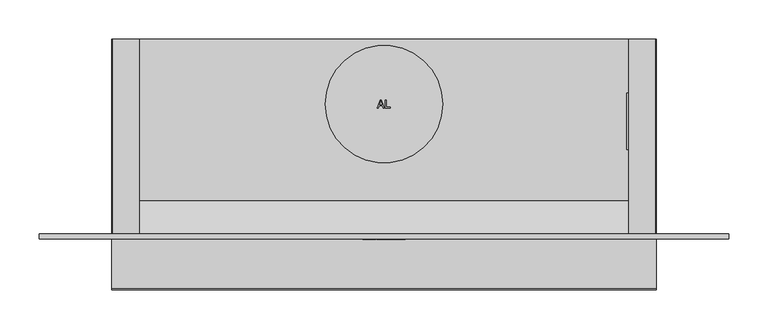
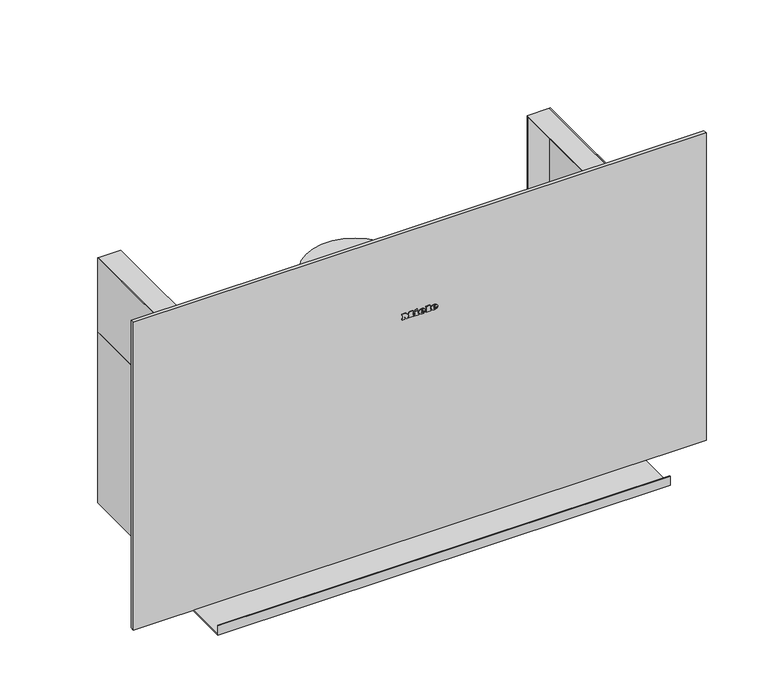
"""IFC4 building model written with IfcOpenShell, lengths in millimetres: proxy geometry, 12529800_KZ_DA9092W_OBSW : 28909240_KZ_12529800_DA9092W_OBSW."""

from ifc_helpers import new_model, si_unit, point, frame, frame_2d, origin, place, context, project, spatial, polyline, circle_curve, ellipse_curve, trimmed, segment, composite_curve, outline, extrude, faceted_brep, source, transform, mapped, element, save
from ifc_brep_helpers import plane_surface, cylinder_surface, revolved_surface, extruded_surface, advanced_brep


def specialty_equipment_fa54f33d(model_context):
    return source(origin(), model_context, "Body", "SolidModel", [
        advanced_brep(
        [(21.38, -256.0, 363.133), (21.38, -256.0, 364.042), (27.401, -256.0, 364.042), (16.925, -256.0, 364.042), (19.4, -256.0, 361.0), (27.248, -256.0, 363.133), (24.53, -256.0, 363.133), (22.388, -256.0, 362.125), (21.38, -256.0, 365.194), (21.38, -256.0, 366.175), (22.919, -256.0, 366.175), (22.919, -256.0, 365.194), (21.38, -255.0, 363.133), (22.388, -255.0, 362.125), (24.53, -255.0, 363.133), (27.248, -255.0, 363.133), (19.4, -255.0, 361.0), (16.925, -255.0, 364.042), (27.401, -255.0, 364.042), (21.38, -255.0, 364.042), (21.38, -255.0, 365.194), (22.919, -255.0, 365.194), (22.919, -255.0, 366.175), (21.38, -255.0, 366.175)],
        [
            (0, 1),
            (1, 2),
            (2, 3, ellipse_curve(frame((22.163, -256.0, 364.042), z_axis=(0.0, -1.0, 0.0), x_axis=(-1.0, 0.0, 0.0)), 5.238, 4.329)),
            (3, 4, circle_curve(frame((20.4080491, -256.0, 364.348), z_axis=(0.0, -1.0, 0.0), x_axis=(0.0, 0.0, -1.0)), 3.4964649)),
            (4, 5, circle_curve(frame((22.0581428, -256.0, 366.724), z_axis=(0.0, -1.0, 0.0), x_axis=(0.0, 0.0, -1.0)), 6.3110933)),
            (5, 6),
            (6, 7, circle_curve(frame((22.8279412, -256.0, 363.97), z_axis=(0.0, 1.0, 0.0), x_axis=(0.0, 0.0, -1.0)), 1.896727)),
            (7, 0, circle_curve(frame((22.388, -256.0, 363.133), z_axis=(0.0, 1.0, 0.0), x_axis=(0.0, 0.0, -1.0)), 1.008)),
            (8, 9),
            (9, 10, circle_curve(frame((22.1495, -256.0, 366.175), z_axis=(0.0, 1.0, 0.0), x_axis=(0.0, 0.0, -1.0)), 0.7695)),
            (10, 11),
            (11, 8),
            (12, 13, circle_curve(frame((22.388, -255.0, 363.133), z_axis=(0.0, -1.0, 0.0), x_axis=(0.0, 0.0, -1.0)), 1.008)),
            (13, 14, circle_curve(frame((22.8279412, -255.0, 363.97), z_axis=(0.0, -1.0, 0.0), x_axis=(0.0, 0.0, -1.0)), 1.896727)),
            (14, 15),
            (15, 16, circle_curve(frame((22.0581428, -255.0, 366.724), z_axis=(0.0, 1.0, 0.0), x_axis=(0.0, 0.0, -1.0)), 6.3110933)),
            (16, 17, circle_curve(frame((20.4080491, -255.0, 364.348), z_axis=(0.0, 1.0, 0.0), x_axis=(0.0, 0.0, -1.0)), 3.4964649)),
            (17, 18, ellipse_curve(frame((22.163, -255.0, 364.042), z_axis=(0.0, 1.0, 0.0), x_axis=(-1.0, 0.0, 0.0)), 5.238, 4.329)),
            (18, 19),
            (19, 12),
            (20, 21),
            (21, 22),
            (22, 23, circle_curve(frame((22.1495, -255.0, 366.175), z_axis=(0.0, -1.0, 0.0), x_axis=(0.0, 0.0, -1.0)), 0.7695)),
            (23, 20),
            (0, 12),
            (19, 1),
            (18, 2),
            (5, 15),
            (14, 6),
            (17, 3),
            (13, 7),
            (16, 4),
            (8, 20),
            (23, 9),
            (22, 10),
            (21, 11),
        ],
        [
            plane_surface(frame((21.38, -256.0, 364.042), z_axis=(0.0, -1.0, 0.0), x_axis=(0.0, 0.0, 1.0))),
            plane_surface(frame((21.38, -255.0, 364.042), z_axis=(0.0, 1.0, 0.0), x_axis=(0.0, 0.0, -1.0))),
            plane_surface(frame((21.38, -256.0, 363.133), z_axis=(1.0, 0.0, 0.0), x_axis=(0.0, 1.0, 0.0))),
            plane_surface(frame((21.38, -256.0, 364.042), z_axis=(0.0, 0.0, -1.0), x_axis=(0.0, 1.0, 0.0))),
            plane_surface(frame((27.248, -256.0, 363.133), z_axis=(0.0, 0.0, 1.0), x_axis=(0.0, 1.0, 0.0))),
            extruded_surface(trimmed(ellipse_curve(frame((22.163, -254.0, 364.042), z_axis=(0.0, -1.0, 0.0), x_axis=(-1.0, 0.0, 0.0)), 5.238, 4.329), [point((27.401, -254.0, 364.042))], [point((16.925, -254.0, 364.042))], True, "CARTESIAN"), (0.0, -1.0, 0.0), 1.0),
            revolved_surface(polyline([(22.8279412, -255.0, 362.07327300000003), (22.8279412, -256.0, 362.07327300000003)]), (22.8279412, -255.0, 363.97), (0.0, 1.0, 0.0)),
            revolved_surface(polyline([(22.388, -255.0, 362.125), (22.388, -256.0, 362.125)]), (22.388, -255.0, 363.133), (0.0, 1.0, 0.0)),
            cylinder_surface(frame((20.4080491, -255.0, 364.348), z_axis=(0.0, -1.0, 0.0), x_axis=(0.0, 0.0, -1.0)), 3.4964649),
            cylinder_surface(frame((22.0581428, -255.0, 366.724), z_axis=(0.0, -1.0, 0.0), x_axis=(0.0, 0.0, -1.0)), 6.3110933),
            plane_surface(frame((21.38, -256.0, 365.194), z_axis=(1.0, 0.0, 0.0), x_axis=(0.0, 1.0, 0.0))),
            revolved_surface(polyline([(22.1495, -255.0, 365.4055), (22.1495, -256.0, 365.4055)]), (22.1495, -255.0, 366.175), (0.0, 1.0, 0.0)),
            plane_surface(frame((22.919, -256.0, 366.175), z_axis=(-1.0, 0.0, 0.0), x_axis=(0.0, 1.0, 0.0))),
            plane_surface(frame((22.919, -256.0, 365.194), z_axis=(0.0, 0.0, 1.0), x_axis=(0.0, 1.0, 0.0))),
        ],
        [
            (0, [[1, 2, 3, 4, 5, 6, 7, 8], [9, 10, 11, 12]]),
            (1, [[13, 14, 15, 16, 17, 18, 19, 20], [21, 22, 23, 24]]),
            (2, [[-1, 25, -20, 26]]),
            (3, [[-2, -26, -19, 27]]),
            (4, [[-6, 28, -15, 29]]),
            (5, [[-3, -27, -18, 30]]),
            (6, [[-7, -29, -14, 31]]),
            (7, [[-8, -31, -13, -25]]),
            (8, [[-4, -30, -17, 32]]),
            (9, [[-5, -32, -16, -28]]),
            (10, [[-9, 33, -24, 34]]),
            (11, [[-10, -34, -23, 35]]),
            (12, [[-11, -35, -22, 36]]),
            (13, [[-12, -36, -21, -33]]),
        ],
    ),
        advanced_brep(
        [(2.597, -256.0, 363.133), (2.597, -256.0, 364.042), (8.618, -256.0, 364.042), (-1.858, -256.0, 364.042), (0.617, -256.0, 361.0), (8.465, -256.0, 363.133), (5.747, -256.0, 363.133), (3.605, -256.0, 362.125), (2.597, -256.0, 365.194), (2.597, -256.0, 366.175), (4.136, -256.0, 366.175), (4.136, -256.0, 365.194), (2.597, -255.0, 363.133), (3.605, -255.0, 362.125), (5.747, -255.0, 363.133), (8.465, -255.0, 363.133), (0.617, -255.0, 361.0), (-1.858, -255.0, 364.042), (8.618, -255.0, 364.042), (2.597, -255.0, 364.042), (2.597, -255.0, 365.194), (4.136, -255.0, 365.194), (4.136, -255.0, 366.175), (2.597, -255.0, 366.175)],
        [
            (0, 1),
            (1, 2),
            (2, 3, ellipse_curve(frame((3.38, -256.0, 364.042), z_axis=(0.0, -1.0, 0.0), x_axis=(-1.0, 0.0, 0.0)), 5.238, 4.329)),
            (3, 4, circle_curve(frame((1.6250491, -256.0, 364.348), z_axis=(0.0, -1.0, 0.0), x_axis=(0.0, 0.0, -1.0)), 3.4964649)),
            (4, 5, circle_curve(frame((3.2751428, -256.0, 366.724), z_axis=(0.0, -1.0, 0.0), x_axis=(0.0, 0.0, -1.0)), 6.3110933)),
            (5, 6),
            (6, 7, circle_curve(frame((4.0449412, -256.0, 363.97), z_axis=(0.0, 1.0, 0.0), x_axis=(0.0, 0.0, -1.0)), 1.896727)),
            (7, 0, circle_curve(frame((3.605, -256.0, 363.133), z_axis=(0.0, 1.0, 0.0), x_axis=(0.0, 0.0, -1.0)), 1.008)),
            (8, 9),
            (9, 10, circle_curve(frame((3.3665, -256.0, 366.175), z_axis=(0.0, 1.0, 0.0), x_axis=(0.0, 0.0, -1.0)), 0.7695)),
            (10, 11),
            (11, 8),
            (12, 13, circle_curve(frame((3.605, -255.0, 363.133), z_axis=(0.0, -1.0, 0.0), x_axis=(0.0, 0.0, -1.0)), 1.008)),
            (13, 14, circle_curve(frame((4.0449412, -255.0, 363.97), z_axis=(0.0, -1.0, 0.0), x_axis=(0.0, 0.0, -1.0)), 1.896727)),
            (14, 15),
            (15, 16, circle_curve(frame((3.2751428, -255.0, 366.724), z_axis=(0.0, 1.0, 0.0), x_axis=(0.0, 0.0, -1.0)), 6.3110933)),
            (16, 17, circle_curve(frame((1.6250491, -255.0, 364.348), z_axis=(0.0, 1.0, 0.0), x_axis=(0.0, 0.0, -1.0)), 3.4964649)),
            (17, 18, ellipse_curve(frame((3.38, -255.0, 364.042), z_axis=(0.0, 1.0, 0.0), x_axis=(-1.0, 0.0, 0.0)), 5.238, 4.329)),
            (18, 19),
            (19, 12),
            (20, 21),
            (21, 22),
            (22, 23, circle_curve(frame((3.3665, -255.0, 366.175), z_axis=(0.0, -1.0, 0.0), x_axis=(0.0, 0.0, -1.0)), 0.7695)),
            (23, 20),
            (0, 12),
            (19, 1),
            (18, 2),
            (5, 15),
            (14, 6),
            (17, 3),
            (13, 7),
            (16, 4),
            (8, 20),
            (23, 9),
            (22, 10),
            (21, 11),
        ],
        [
            plane_surface(frame((2.597, -256.0, 364.042), z_axis=(0.0, -1.0, 0.0), x_axis=(0.0, 0.0, 1.0))),
            plane_surface(frame((2.597, -255.0, 364.042), z_axis=(0.0, 1.0, 0.0), x_axis=(0.0, 0.0, -1.0))),
            plane_surface(frame((2.597, -256.0, 363.133), z_axis=(1.0, 0.0, 0.0), x_axis=(0.0, 1.0, 0.0))),
            plane_surface(frame((2.597, -256.0, 364.042), z_axis=(0.0, 0.0, -1.0), x_axis=(0.0, 1.0, 0.0))),
            plane_surface(frame((8.465, -256.0, 363.133), z_axis=(0.0, 0.0, 1.0), x_axis=(0.0, 1.0, 0.0))),
            extruded_surface(trimmed(ellipse_curve(frame((3.38, -254.0, 364.042), z_axis=(0.0, -1.0, 0.0), x_axis=(-1.0, 0.0, 0.0)), 5.238, 4.329), [point((8.618, -254.0, 364.042))], [point((-1.858, -254.0, 364.042))], True, "CARTESIAN"), (0.0, -1.0, 0.0), 1.0),
            revolved_surface(polyline([(4.0449412, -255.0, 362.07327300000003), (4.0449412, -256.0, 362.07327300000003)]), (4.0449412, -255.0, 363.97), (0.0, 1.0, 0.0)),
            revolved_surface(polyline([(3.605, -255.0, 362.125), (3.605, -256.0, 362.125)]), (3.605, -255.0, 363.133), (0.0, 1.0, 0.0)),
            cylinder_surface(frame((1.6250491, -255.0, 364.348), z_axis=(0.0, -1.0, 0.0), x_axis=(0.0, 0.0, -1.0)), 3.4964649),
            cylinder_surface(frame((3.2751428, -255.0, 366.724), z_axis=(0.0, -1.0, 0.0), x_axis=(0.0, 0.0, -1.0)), 6.3110933),
            plane_surface(frame((2.597, -256.0, 365.194), z_axis=(1.0, 0.0, 0.0), x_axis=(0.0, 1.0, 0.0))),
            revolved_surface(polyline([(3.3665, -255.0, 365.4055), (3.3665, -256.0, 365.4055)]), (3.3665, -255.0, 366.175), (0.0, 1.0, 0.0)),
            plane_surface(frame((4.136, -256.0, 366.175), z_axis=(-1.0, 0.0, 0.0), x_axis=(0.0, 1.0, 0.0))),
            plane_surface(frame((4.136, -256.0, 365.194), z_axis=(0.0, 0.0, 1.0), x_axis=(0.0, 1.0, 0.0))),
        ],
        [
            (0, [[1, 2, 3, 4, 5, 6, 7, 8], [9, 10, 11, 12]]),
            (1, [[13, 14, 15, 16, 17, 18, 19, 20], [21, 22, 23, 24]]),
            (2, [[-1, 25, -20, 26]]),
            (3, [[-2, -26, -19, 27]]),
            (4, [[-6, 28, -15, 29]]),
            (5, [[-3, -27, -18, 30]]),
            (6, [[-7, -29, -14, 31]]),
            (7, [[-8, -31, -13, -25]]),
            (8, [[-4, -30, -17, 32]]),
            (9, [[-5, -32, -16, -28]]),
            (10, [[-9, 33, -24, 34]]),
            (11, [[-10, -34, -23, 35]]),
            (12, [[-11, -35, -22, 36]]),
            (13, [[-12, -36, -21, -33]]),
        ],
    ),
        extrude(outline(polyline([(369.469, -7.24), (368.011, -6.556), (369.433, -3.505), (370.891, -4.18), (369.469, -7.24)])), frame((0.0, -256.0, 0.0), z_axis=(0.0, 1.0, 0.0), x_axis=(0.0, 0.0, 1.0)), (0.0, 0.0, 1.0), 1.0),
        extrude(outline(polyline([(367.813, -9.463), (366.202, -9.463), (366.202, -8.392), (362.512, -8.392), (362.512, -9.463), (361.0, -9.463), (361.0, -2.362), (362.512, -2.362), (362.512, -3.406), (367.813, -3.406), (367.813, -9.463)])), frame((0.0, -256.0, 0.0), z_axis=(0.0, 1.0, 0.0), x_axis=(0.0, 0.0, 1.0)), (0.0, 0.0, 1.0), 1.0),
        extrude(outline(polyline([(368.533, 9.122), (368.533, 10.202), (362.512, 10.202), (362.512, 9.122), (361.0, 9.122), (361.0, 16.421), (362.512, 16.421), (362.512, 15.314), (370.0, 15.314), (370.0, 9.122), (368.533, 9.122)])), frame((0.0, -256.0, 0.0), z_axis=(0.0, 1.0, 0.0), x_axis=(0.0, 0.0, 1.0)), (0.0, 0.0, 1.0), 1.0),
        extrude(outline(polyline([(368.533, -27.4), (368.533, -26.311), (362.512, -26.311), (362.512, -27.4), (361.0, -27.4), (361.0, -23.44), (362.512, -23.44), (362.512, -24.52), (366.3341247, -24.52), (361.0, -20.497), (366.4402223, -16.456), (362.512, -16.456), (362.512, -17.563), (361.0, -17.563), (361.0, -10.381), (362.512, -10.381), (362.512, -11.524), (368.533, -11.524), (368.533, -10.381), (370.0, -10.381), (370.0, -15.862), (366.625, -18.49), (370.0, -21.127), (370.0, -27.4), (368.533, -27.4)])), frame((0.0, -256.0, 0.0), z_axis=(0.0, 1.0, 0.0), x_axis=(0.0, 0.0, 1.0)), (0.0, 0.0, 1.0), 1.0),
        extrude(outline(polyline([(119.0, -217.5), (119.0, -229.5), (-119.0, -229.5), (-119.0, -217.5), (119.0, -217.5)])), frame((0.0, 0.0, 24.0), z_axis=(0.0, 0.0, 1.0), x_axis=(1.0, 0.0, 0.0)), (0.0, 0.0, 1.0), 3.0),
        extrude(outline(composite_curve([segment(trimmed(circle_curve(frame_2d((123.5, -212.0)), 1.5), [point((123.5, -210.5))], [point((125.0, -212.0))], False, "CARTESIAN"), True, "CONTINUOUS"), segment(polyline([(125.0, -212.0), (125.0, -235.0)]), True, "CONTINUOUS"), segment(trimmed(circle_curve(frame_2d((123.5, -235.0)), 1.5), [point((125.0, -235.0))], [point((123.5, -236.5))], False, "CARTESIAN"), True, "CONTINUOUS"), segment(polyline([(123.5, -236.5), (-123.5, -236.5)]), True, "CONTINUOUS"), segment(trimmed(circle_curve(frame_2d((-123.5, -235.0)), 1.5), [point((-123.5, -236.5))], [point((-125.0, -235.0))], False, "CARTESIAN"), True, "CONTINUOUS"), segment(polyline([(-125.0, -235.0), (-125.0, -212.0)]), True, "CONTINUOUS"), segment(trimmed(circle_curve(frame_2d((-123.5, -212.0)), 1.5), [point((-125.0, -212.0))], [point((-123.5, -210.5))], False, "CARTESIAN"), True, "CONTINUOUS"), segment(polyline([(-123.5, -210.5), (123.5, -210.5)]), True, "CONTINUOUS")], self_intersect=False), holes=[polyline([(119.0, -217.5), (-119.0, -217.5), (-119.0, -229.5), (119.0, -229.5), (119.0, -217.5)])]), frame((0.0, 0.0, 24.0), z_axis=(0.0, 0.0, 1.0), x_axis=(1.0, 0.0, 0.0)), (0.0, 0.0, 1.0), 3.0),
        extrude(outline(polyline([(-139.5, -146.0), (-139.5, -189.0), (-172.5, -189.0), (-172.5, -146.0), (-139.5, -146.0)]), holes=[polyline([(-146.0, -152.5), (-166.0, -152.5), (-166.0, -182.5), (-146.0, -182.5), (-146.0, -152.5)])]), frame((0.0, 0.0, 26.0), z_axis=(0.0, 0.0, 1.0), x_axis=(1.0, 0.0, 0.0)), (0.0, 0.0, 1.0), 1.5),
        extrude(outline(polyline([(139.5, -146.0), (172.5, -146.0), (172.5, -189.0), (139.5, -189.0), (139.5, -146.0)]), holes=[polyline([(146.0, -152.5), (146.0, -182.5), (166.0, -182.5), (166.0, -152.5), (146.0, -152.5)])]), frame((0.0, 0.0, 26.0), z_axis=(0.0, 0.0, 1.0), x_axis=(1.0, 0.0, 0.0)), (0.0, 0.0, 1.0), 1.5),
        extrude(outline(polyline([(-9.0, -29.0), (-9.0, -189.0), (-303.0, -189.0), (-303.0, -29.0), (-9.0, -29.0)])), frame((0.0, 0.0, 27.5), z_axis=(0.0, 0.0, 1.0), x_axis=(1.0, 0.0, 0.0)), (0.0, 0.0, 1.0), 6.0),
        extrude(outline(polyline([(303.0, -29.0), (303.0, -189.0), (9.0, -189.0), (9.0, -29.0), (303.0, -29.0)])), frame((0.0, 0.0, 27.5), z_axis=(0.0, 0.0, 1.0), x_axis=(1.0, 0.0, 0.0)), (0.0, 0.0, 1.0), 6.0),
        extrude(outline(polyline([(312.0, -20.0), (312.0, -198.0), (-312.0, -198.0), (-312.0, -20.0), (312.0, -20.0)]), holes=[polyline([(-9.0, -29.0), (-303.0, -29.0), (-303.0, -189.0), (-9.0, -189.0), (-9.0, -29.0)]), polyline([(303.0, -29.0), (9.0, -29.0), (9.0, -189.0), (303.0, -189.0), (303.0, -29.0)])]), frame((0.0, 0.0, 26.0), z_axis=(0.0, 0.0, 1.0), x_axis=(1.0, 0.0, 0.0)), (0.0, 0.0, 1.0), 9.0),
        extrude(outline(polyline([(-146.0, -162.5), (-146.0, -182.5), (-166.0, -182.5), (-166.0, -162.5), (-146.0, -162.5)])), frame((0.0, 0.0, 26.0), z_axis=(0.0, 0.0, 1.0), x_axis=(1.0, 0.0, 0.0)), (0.0, 0.0, 1.0), 1.5),
        extrude(outline(polyline([(146.0, -162.5), (166.0, -162.5), (166.0, -182.5), (146.0, -182.5), (146.0, -162.5)])), frame((0.0, 0.0, 26.0), z_axis=(0.0, 0.0, 1.0), x_axis=(1.0, 0.0, 0.0)), (0.0, 0.0, 1.0), 1.5),
        extrude(outline(polyline([(-207.0353896, 299.0), (-249.0, 299.0), (-249.0, 340.9646104), (-207.0353896, 299.0)])), frame((-346.5, 0.0, 0.0), z_axis=(1.0, 0.0, 0.0), x_axis=(0.0, 1.0, 0.0)), (0.0, 0.0, 1.0), 693.0),
        extrude(outline(polyline([(-346.5, 0.0), (-346.5, -249.0), (-347.5, -249.0), (-347.5, 0.0), (-346.5, 0.0)])), frame((0.0, 0.0, 299.0), z_axis=(0.0, 0.0, 1.0), x_axis=(1.0, 0.0, 0.0)), (0.0, 0.0, 1.0), 120.0),
        extrude(outline(polyline([(347.5, 0.0), (347.5, -249.0), (346.5, -249.0), (346.5, 0.0), (347.5, 0.0)])), frame((0.0, 0.0, 299.0), z_axis=(0.0, 0.0, 1.0), x_axis=(1.0, 0.0, 0.0)), (0.0, 0.0, 1.0), 120.0),
        extrude(outline(polyline([(-312.5, 0.0), (-312.5, -249.0), (-346.5, -249.0), (-346.5, 0.0), (-312.5, 0.0)])), frame((0.0, 0.0, 418.0), z_axis=(0.0, 0.0, 1.0), x_axis=(1.0, 0.0, 0.0)), (0.0, 0.0, 1.0), 1.0),
        extrude(outline(polyline([(346.5, 0.0), (346.5, -249.0), (312.5, -249.0), (312.5, 0.0), (346.5, 0.0)])), frame((0.0, 0.0, 418.0), z_axis=(0.0, 0.0, 1.0), x_axis=(1.0, 0.0, 0.0)), (0.0, 0.0, 1.0), 1.0),
        extrude(outline(polyline([(-4.5486427, -77.9570797), (-3.4705465, -77.9570797), (0.5431319, -87.997251), (-0.7849958, -87.997251), (-1.9299575, -84.8514948), (-6.0737375, -84.8514948), (-7.2212702, -88.004315), (-8.548697, -88.004315), (-4.5486427, -77.9570797)]), holes=[polyline([(-4.0018475, -79.1590237), (-5.6174469, -83.5978465), (-2.3862481, -83.5978465), (-4.0018475, -79.1590237)])]), frame((0.0, 0.0, 327.0), z_axis=(0.0, 0.0, 1.0), x_axis=(1.0, 0.0, 0.0)), (0.0, 0.0, 1.0), 1.0),
        extrude(outline(polyline([(1.8708393, -87.9956267), (1.8708393, -77.9403882), (3.1645666, -77.9403882), (3.1645666, -86.7408572), (8.1645666, -86.7408572), (8.1645666, -87.9956267), (1.8708393, -87.9956267)])), frame((0.0, 0.0, 327.0), z_axis=(0.0, 0.0, 1.0), x_axis=(1.0, 0.0, 0.0)), (0.0, 0.0, 1.0), 1.0),
        extrude(outline(polyline([(312.5, 0.0), (346.5, 0.0), (346.5, -1.0), (312.5, -1.0), (312.5, 0.0)])), frame((0.0, 0.0, 299.0), z_axis=(0.0, 0.0, 1.0), x_axis=(1.0, 0.0, 0.0)), (0.0, 0.0, 1.0), 119.0),
        extrude(outline(polyline([(-346.5, 0.0), (-312.5, 0.0), (-312.5, -1.0), (-346.5, -1.0), (-346.5, 0.0)])), frame((0.0, 0.0, 299.0), z_axis=(0.0, 0.0, 1.0), x_axis=(1.0, 0.0, 0.0)), (0.0, 0.0, 1.0), 119.0),
        extrude(outline(polyline([(336.0, -69.0), (336.0, -141.0), (310.0, -141.0), (310.0, -69.0), (336.0, -69.0)])), frame((0.0, 0.0, 299.0), z_axis=(0.0, 0.0, 1.0), x_axis=(1.0, 0.0, 0.0)), (0.0, 0.0, 1.0), 17.0),
        extrude(outline(composite_curve([segment(trimmed(circle_curve(frame_2d((320.0, -91.0)), 7.5), [point((327.5, -91.0))], [point((312.5, -91.0))], False, "CARTESIAN"), True, "CONTINUOUS"), segment(trimmed(circle_curve(frame_2d((320.0, -91.0)), 7.5), [point((312.5, -91.0))], [point((327.5, -91.0))], False, "CARTESIAN"), True, "CONTINUOUS")], self_intersect=False)), frame((0.0, 0.0, 316.0), z_axis=(0.0, 0.0, 1.0), x_axis=(1.0, 0.0, 0.0)), (0.0, 0.0, 1.0), 30.0),
        extrude(outline(polyline([(319.841452, -85.9529261), (319.841452, -87.2088136), (313.8778325, -87.2088136), (313.8778325, -90.2299035), (319.5327316, -90.2299035), (319.5327316, -91.4937168), (313.8778325, -91.4937168), (313.8778325, -94.7885181), (320.00259, -94.7885181), (320.00259, -96.0470739), (312.6222441, -96.0470739), (312.6222441, -85.9529261), (319.841452, -85.9529261)])), frame((0.0, 0.0, 346.0), z_axis=(0.0, 0.0, 1.0), x_axis=(1.0, 0.0, 0.0)), (0.0, 0.0, 1.0), 1.0),
        extrude(outline(polyline([(321.8810892, -95.9942733), (321.8810892, -85.945763), (323.1586419, -85.945763), (323.1586419, -94.7376744), (328.1586419, -94.7376744), (328.1586419, -95.9942733), (321.8810892, -95.9942733)])), frame((0.0, 0.0, 346.0), z_axis=(0.0, 0.0, 1.0), x_axis=(1.0, 0.0, 0.0)), (0.0, 0.0, 1.0), 1.0),
        extrude(outline(polyline([(-248.0, 21.0), (-248.0, 0.0), (-320.0, 0.0), (-320.0, 15.0), (-319.0, 15.0), (-319.0, 1.0), (-249.0, 1.0), (-249.0, 21.0), (-248.0, 21.0)])), frame((-347.5, 0.0, 0.0), z_axis=(1.0, 0.0, 0.0), x_axis=(0.0, 1.0, 0.0)), (0.0, 0.0, 1.0), 695.0),
        extrude(outline(polyline([(-440.0, -249.0), (440.0, -249.0), (440.0, -255.0), (-440.0, -255.0), (-440.0, -249.0)])), frame((0.0, 0.0, 1.0), z_axis=(0.0, 0.0, 1.0), x_axis=(1.0, 0.0, 0.0)), (0.0, 0.0, 1.0), 500.0),
        extrude(outline(composite_curve([segment(trimmed(circle_curve(frame_2d((0.0, -83.0)), 75.0), [point((75.0, -83.0))], [point((-75.0, -83.0))], False, "CARTESIAN"), True, "CONTINUOUS"), segment(trimmed(circle_curve(frame_2d((0.0, -83.0)), 75.0), [point((-75.0, -83.0))], [point((75.0, -83.0))], False, "CARTESIAN"), True, "CONTINUOUS")], self_intersect=False)), frame((0.0, 0.0, 299.0), z_axis=(0.0, 0.0, 1.0), x_axis=(1.0, 0.0, 0.0)), (0.0, 0.0, 1.0), 28.0),
        faceted_brep([(347.5, 0.0, 299.0), (-347.5, 0.0, 299.0), (-347.5, -249.0, 299.0), (347.5, -249.0, 299.0), (347.5, 0.0, 21.0), (347.5, -249.0, 21.0), (-347.5, -249.0, 21.0), (-347.5, 0.0, 21.0), (125.5, -210.0, 21.0), (-125.5, -210.0, 21.0), (-125.5, -237.0, 21.0), (125.5, -237.0, 21.0), (312.5, -19.0, 21.0), (-312.5, -19.0, 21.0), (-312.5, -198.0, 21.0), (312.5, -198.0, 21.0), (125.5, -210.0, 27.0), (125.5, -237.0, 27.0), (-125.5, -237.0, 27.0), (-125.5, -210.0, 27.0), (312.5, -19.0, 35.0), (312.5, -198.0, 35.0), (-312.5, -198.0, 35.0), (-312.5, -19.0, 35.0)], [[[0, 1, 2, 3]], [[4, 5, 6, 7], [8, 9, 10, 11], [12, 13, 14, 15]], [[1, 0, 4, 7]], [[2, 1, 7, 6]], [[3, 2, 6, 5]], [[0, 3, 5, 4]], [[16, 17, 18, 19]], [[16, 19, 9, 8]], [[19, 18, 10, 9]], [[18, 17, 11, 10]], [[17, 16, 8, 11]], [[20, 21, 22, 23]], [[20, 23, 13, 12]], [[23, 22, 14, 13]], [[22, 21, 15, 14]], [[21, 20, 12, 15]]]),
    ])


if __name__ == "__main__":
    model = new_model("IFC4")
    model_context = context("Model", 3, world=origin())
    ifc_project = project(units=[si_unit("LENGTHUNIT", "METRE", prefix="MILLI")], contexts=[model_context])
    site = spatial("IfcSite", under=ifc_project)
    building = spatial("IfcBuilding", under=site)
    placement = place(None, origin())
    specialty_equipment_shape = specialty_equipment_fa54f33d(model_context)
    element("IfcBuildingElementProxy", 1, Name="12529800_KZ_DA9092W_OBSW : 28909240_KZ_12529800_DA9092W_OBSW", ObjectType="12529800_KZ_DA9092W_OBSW : 28909240_KZ_12529800_DA9092W_OBSW", at=placement, inside=building, context=model_context, shape_type="MappedRepresentation", body=[
        mapped(specialty_equipment_shape, transform((0.0, 0.0, 0.0), x_axis=(1.0, 0.0, 0.0), y_axis=(0.0, 1.0, 0.0), z_axis=(0.0, 0.0, 1.0))),
    ])
    save(model, "model.ifc")
